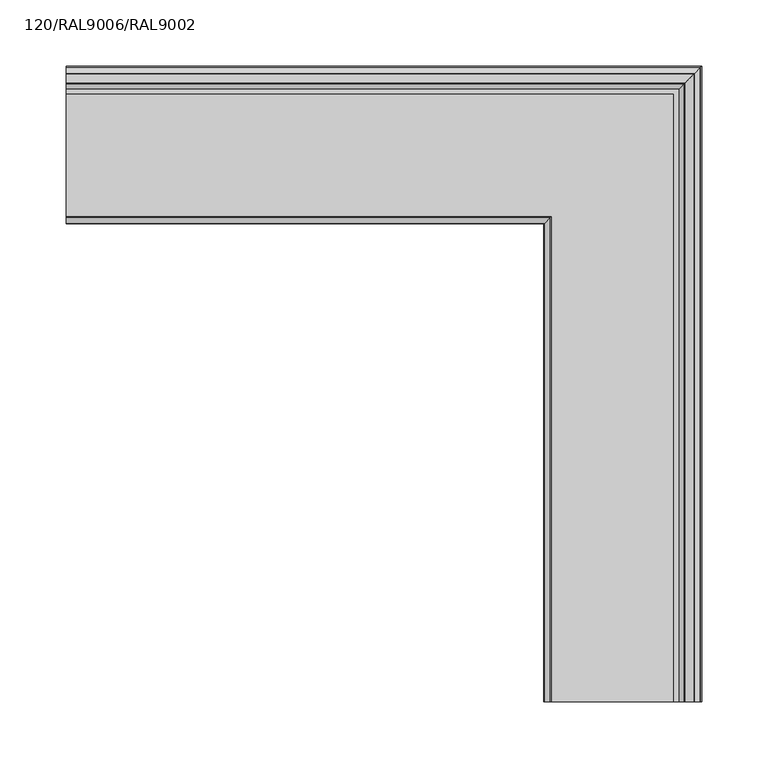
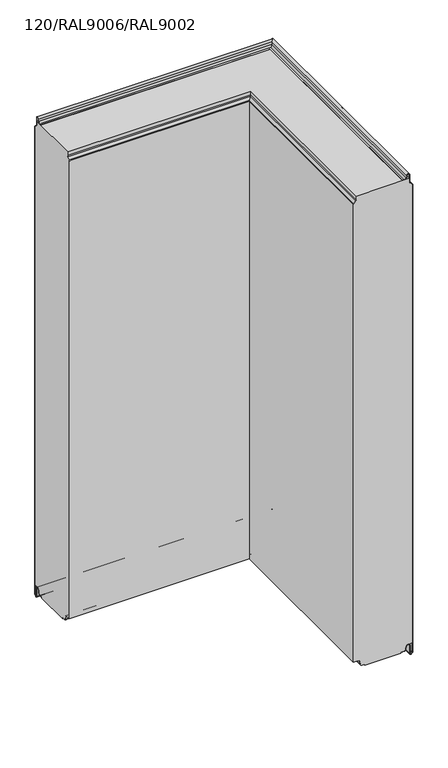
"""IFC4 building model written with IfcOpenShell, lengths in millimetres: plate geometry, TR_C_H_FTV_Corner_Tr_A : 120/RAL9006/RAL9002."""

from ifc_helpers import new_model, si_unit, frame, origin, place, context, project, spatial, polyline, circle_curve, ellipse_curve, source, transform, mapped, element, save
from ifc_brep_helpers import plane_surface, cylinder_surface, revolved_surface, advanced_brep


def plate_120_ral9006_ral9002_61fda5af(model_context):
    return source(origin(), model_context, "Body", "AdvancedBrep", [
        advanced_brep(
        [(233.2, -480.0, 1000.0), (126.8, -480.0, 1000.0), (126.8, -480.0, 992.6000012), (125.8334524, -480.0, 990.2665488), (121.4443651, -480.0, 985.8774615), (120.8, -480.0, 984.3218266), (120.8, -480.0, 14.4000012), (129.45, -480.0, 14.4000012), (133.635433, -480.0, 10.8880059), (134.7022582, -480.0, 4.837739), (137.6074411, -480.0, 2.4000012), (143.7, -480.0, 2.4000012), (143.7, -480.0, 0.0), (216.3, -480.0, 0.0), (216.3, -480.0, 2.4000012), (222.3925589, -480.0, 2.4000012), (225.2977418, -480.0, 4.837739), (226.364567, -480.0, 10.8880059), (230.55, -480.0, 14.4000012), (239.2, -480.0, 14.4000012), (239.2, -480.0, 984.3218266), (238.5556349, -480.0, 985.8774615), (234.1665476, -480.0, 990.2665488), (233.2, -480.0, 992.6000012), (126.8, -113.2, 992.6000012), (126.8, -113.2, 1000.0), (-240.0, -113.2, 1000.0), (-240.0, -113.2, 992.6000012), (125.8334524, -114.1665476, 990.2665488), (-240.0, -114.1665476, 990.2665488), (121.4443651, -118.5556349, 985.8774615), (-240.0, -118.5556349, 985.8774615), (120.8, -119.2, 984.3218266), (-240.0, -119.2, 984.3218266), (120.8, -119.2, 14.4000012), (-240.0, -119.2, 14.4000012), (133.635433, -106.364567, 10.8880059), (129.45, -110.55, 14.4000012), (-240.0, -110.55, 14.4000012), (-240.0, -106.364567, 10.8880059), (134.7022582, -105.2977418, 4.837739), (-240.0, -105.2977418, 4.837739), (137.6074411, -102.3925589, 2.4000012), (-240.0, -102.3925589, 2.4000012), (143.7, -96.3, 0.0), (143.7, -96.3, 2.4000012), (-240.0, -96.3, 2.4000012), (-240.0, -96.3, 0.0), (216.3, -23.7, 2.4000012), (216.3, -23.7, 0.0), (-240.0, -23.7, 0.0), (-240.0, -23.7, 2.4000012), (225.2977418, -14.7022582, 4.837739), (222.3925589, -17.6074411, 2.4000012), (-240.0, -17.6074411, 2.4000012), (-240.0, -14.7022582, 4.837739), (226.364567, -13.635433, 10.8880059), (-240.0, -13.635433, 10.8880059), (230.55, -9.45, 14.4000012), (-240.0, -9.45, 14.4000012), (239.2, -0.8, 984.3218266), (239.2, -0.8, 14.4000012), (-240.0, -0.8, 14.4000012), (-240.0, -0.8, 984.3218266), (238.5556349, -1.4443651, 985.8774615), (-240.0, -1.4443651, 985.8774615), (234.1665476, -5.8334524, 990.2665488), (-240.0, -5.8334524, 990.2665488), (233.2, -6.8, 992.6000012), (-240.0, -6.8, 992.6000012), (233.2, -6.8, 1000.0), (-240.0, -6.8, 1000.0)],
        [
            (0, 1),
            (1, 2),
            (2, 3, circle_curve(frame((123.5, -480.0, 992.6000012), z_axis=(0.0, 1.0, 0.0), x_axis=(-1.0, 0.0, 0.0)), 3.3)),
            (3, 4),
            (4, 5, circle_curve(frame((123.0, -480.0, 984.3218266), z_axis=(0.0, -1.0, 0.0), x_axis=(-1.0, 0.0, 0.0)), 2.2)),
            (5, 6),
            (6, 7),
            (7, 8, circle_curve(frame((129.45, -480.0, 10.1500012), z_axis=(0.0, 1.0, 0.0), x_axis=(-1.0, 0.0, 0.0)), 4.25)),
            (8, 9),
            (9, 10, circle_curve(frame((137.6074411, -480.0, 5.3500012), z_axis=(0.0, -1.0, 0.0), x_axis=(-1.0, 0.0, 0.0)), 2.95)),
            (10, 11),
            (11, 12),
            (12, 13),
            (13, 14),
            (14, 15),
            (15, 16, circle_curve(frame((222.3925589, -480.0, 5.3500012), z_axis=(0.0, -1.0, 0.0), x_axis=(-1.0, 0.0, 0.0)), 2.95)),
            (16, 17),
            (17, 18, circle_curve(frame((230.55, -480.0, 10.1500012), z_axis=(0.0, 1.0, 0.0), x_axis=(-1.0, 0.0, 0.0)), 4.25)),
            (18, 19),
            (19, 20),
            (20, 21, circle_curve(frame((237.0, -480.0, 984.3218266), z_axis=(0.0, -1.0, 0.0), x_axis=(-1.0, 0.0, 0.0)), 2.2)),
            (21, 22),
            (22, 23, circle_curve(frame((236.5, -480.0, 992.6000012), z_axis=(0.0, 1.0, 0.0), x_axis=(-1.0, 0.0, 0.0)), 3.3)),
            (23, 0),
            (24, 25),
            (25, 26),
            (26, 27),
            (27, 24),
            (28, 24, ellipse_curve(frame((123.5, -116.5, 992.6000012), z_axis=(0.7071067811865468, -0.7071067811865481, 0.0), x_axis=(-0.7071067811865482, -0.7071067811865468, 0.0)), 4.6669048, 3.3)),
            (27, 29, circle_curve(frame((-240.0, -116.5, 992.6000012), z_axis=(-1.0, 0.0, 0.0), x_axis=(0.0, -1.0, 0.0)), 3.3)),
            (29, 28),
            (30, 28),
            (29, 31),
            (31, 30),
            (32, 30, ellipse_curve(frame((123.0, -117.0, 984.3218266), z_axis=(-0.7071067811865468, 0.7071067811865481, 0.0), x_axis=(0.7071067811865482, 0.7071067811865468, 0.0)), 3.1112698, 2.2)),
            (31, 33, circle_curve(frame((-240.0, -117.0, 984.3218266), z_axis=(1.0, 0.0, 0.0), x_axis=(0.0, -1.0, 0.0)), 2.2)),
            (33, 32),
            (34, 32),
            (33, 35),
            (35, 34),
            (36, 37, ellipse_curve(frame((129.45, -110.55, 10.1500012), z_axis=(0.7071067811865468, -0.7071067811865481, 0.0), x_axis=(-0.7071067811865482, -0.7071067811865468, 0.0)), 6.0104076, 4.25)),
            (37, 38),
            (38, 39, circle_curve(frame((-240.0, -110.55, 10.1500012), z_axis=(-1.0, 0.0, 0.0), x_axis=(0.0, -1.0, 0.0)), 4.25)),
            (39, 36),
            (40, 36),
            (39, 41),
            (41, 40),
            (42, 40, ellipse_curve(frame((137.6074411, -102.3925589, 5.3500012), z_axis=(-0.7071067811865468, 0.7071067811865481, 0.0), x_axis=(0.7071067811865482, 0.7071067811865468, 0.0)), 4.17193, 2.95)),
            (41, 43, circle_curve(frame((-240.0, -102.3925589, 5.3500012), z_axis=(1.0, 0.0, 0.0), x_axis=(0.0, -1.0, 0.0)), 2.95)),
            (43, 42),
            (44, 45),
            (45, 46),
            (46, 47),
            (47, 44),
            (48, 49),
            (49, 50),
            (50, 51),
            (51, 48),
            (52, 53, ellipse_curve(frame((222.3925589, -17.6074411, 5.3500012), z_axis=(-0.7071067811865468, 0.7071067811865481, 0.0), x_axis=(0.7071067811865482, 0.7071067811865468, 0.0)), 4.17193, 2.95)),
            (53, 54),
            (54, 55, circle_curve(frame((-240.0, -17.6074411, 5.3500012), z_axis=(1.0, 0.0, 0.0), x_axis=(0.0, -1.0, 0.0)), 2.95)),
            (55, 52),
            (56, 52),
            (55, 57),
            (57, 56),
            (58, 56, ellipse_curve(frame((230.55, -9.45, 10.1500012), z_axis=(0.7071067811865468, -0.7071067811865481, 0.0), x_axis=(-0.7071067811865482, -0.7071067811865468, 0.0)), 6.0104076, 4.25)),
            (57, 59, circle_curve(frame((-240.0, -9.45, 10.1500012), z_axis=(-1.0, 0.0, 0.0), x_axis=(0.0, -1.0, 0.0)), 4.25)),
            (59, 58),
            (60, 61),
            (61, 62),
            (62, 63),
            (63, 60),
            (64, 60, ellipse_curve(frame((237.0, -3.0, 984.3218266), z_axis=(-0.7071067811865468, 0.7071067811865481, 0.0), x_axis=(0.7071067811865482, 0.7071067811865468, 0.0)), 3.1112698, 2.2)),
            (63, 65, circle_curve(frame((-240.0, -3.0, 984.3218266), z_axis=(1.0, 0.0, 0.0), x_axis=(0.0, -1.0, 0.0)), 2.2)),
            (65, 64),
            (66, 64),
            (65, 67),
            (67, 66),
            (68, 66, ellipse_curve(frame((236.5, -3.5, 992.6000012), z_axis=(0.7071067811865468, -0.7071067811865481, 0.0), x_axis=(-0.7071067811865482, -0.7071067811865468, 0.0)), 4.6669048, 3.3)),
            (67, 69, circle_curve(frame((-240.0, -3.5, 992.6000012), z_axis=(-1.0, 0.0, 0.0), x_axis=(0.0, -1.0, 0.0)), 3.3)),
            (69, 68),
            (70, 68),
            (69, 71),
            (71, 70),
            (62, 59),
            (54, 51),
            (50, 47),
            (46, 43),
            (38, 35),
            (26, 71),
            (0, 70),
            (25, 1),
            (24, 2),
            (28, 3),
            (30, 4),
            (32, 5),
            (34, 6),
            (37, 7),
            (36, 8),
            (40, 9),
            (42, 10),
            (45, 11),
            (44, 12),
            (49, 13),
            (48, 14),
            (53, 15),
            (52, 16),
            (56, 17),
            (58, 18),
            (61, 19),
            (60, 20),
            (64, 21),
            (66, 22),
            (68, 23),
        ],
        [
            plane_surface(frame((240.0, -480.0, 0.0), z_axis=(0.0, -1.0, 0.0), x_axis=(0.0, 0.0, 1.0))),
            plane_surface(frame((126.8, -113.2, 1000.0), z_axis=(0.0, -1.0, 0.0), x_axis=(-1.0, 0.0, 0.0))),
            revolved_surface(polyline([(-240.0, -119.8, 992.6000012), (126.80000003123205, -119.8, 992.6000012)]), (240.0, -116.5, 992.6000012), (-1.0, 0.0, 0.0)),
            plane_surface(frame((125.8334524, -114.1665476, 990.2665488), z_axis=(0.0, -0.707106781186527, 0.707106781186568), x_axis=(-1.0, 0.0, 0.0))),
            cylinder_surface(frame((240.0, -117.0, 984.3218266), z_axis=(1.0, 0.0, 0.0), x_axis=(0.0, -1.0, 0.0)), 2.2),
            plane_surface(frame((120.8, -119.2, 984.3218266), z_axis=(0.0, -1.0, 0.0), x_axis=(-1.0, 0.0, 0.0))),
            revolved_surface(polyline([(-240.0, -114.8, 10.1500012), (133.69999997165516, -114.8, 10.1500012)]), (240.0, -110.55, 10.1500012), (-1.0, 0.0, 0.0)),
            plane_surface(frame((133.635433, -106.364567, 10.8880059), z_axis=(0.0, -0.9848077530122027, -0.17364817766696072), x_axis=(-1.0, 0.0, 0.0))),
            cylinder_surface(frame((240.0, -102.3925589, 5.3500012), z_axis=(1.0, 0.0, 0.0), x_axis=(0.0, -1.0, 0.0)), 2.95),
            plane_surface(frame((143.7, -96.3, 2.4000012), z_axis=(0.0, -1.0, 0.0), x_axis=(-1.0, 0.0, 0.0))),
            plane_surface(frame((216.3, -23.7, 0.0), z_axis=(0.0, 1.0, 0.0), x_axis=(-1.0, 0.0, 0.0))),
            cylinder_surface(frame((240.0, -17.6074411, 5.3500012), z_axis=(1.0, 0.0, 0.0), x_axis=(0.0, -1.0, 0.0)), 2.95),
            plane_surface(frame((225.2977418, -14.7022582, 4.837739), z_axis=(0.0, 0.9848077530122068, -0.1736481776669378), x_axis=(-1.0, 0.0, 0.0))),
            revolved_surface(polyline([(-240.0, -13.7, 10.1500012), (234.79999997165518, -13.7, 10.1500012)]), (240.0, -9.45, 10.1500012), (-1.0, 0.0, 0.0)),
            plane_surface(frame((239.2, -0.8, 14.4000012), z_axis=(0.0, 1.0, 0.0), x_axis=(-1.0, 0.0, 0.0))),
            cylinder_surface(frame((240.0, -3.0, 984.3218266), z_axis=(1.0, 0.0, 0.0), x_axis=(0.0, -1.0, 0.0)), 2.2),
            plane_surface(frame((238.5556349, -1.4443651, 985.8774615), z_axis=(0.0, 0.7071067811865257, 0.7071067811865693), x_axis=(-1.0, 0.0, 0.0))),
            revolved_surface(polyline([(-240.0, -6.8, 992.6000012), (239.80000003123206, -6.8, 992.6000012)]), (240.0, -3.5, 992.6000012), (-1.0, 0.0, 0.0)),
            plane_surface(frame((233.2, -6.8, 992.6000012), z_axis=(0.0, 1.0, 0.0), x_axis=(-1.0, 0.0, 0.0))),
            plane_surface(frame((-240.0, 0.0, 0.0), z_axis=(-1.0, 0.0, 0.0), x_axis=(0.0, 0.0, 1.0))),
            plane_surface(frame((233.2, -480.0, 1000.0), z_axis=(0.0, 0.0, 1.0), x_axis=(0.0, 1.0, 0.0))),
            plane_surface(frame((126.8, -480.0, 1000.0), z_axis=(-1.0, 0.0, 0.0), x_axis=(0.0, 1.0, 0.0))),
            revolved_surface(polyline([(120.2, -113.19999996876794, 992.6000012), (120.2, -480.0, 992.6000012)]), (123.5, -480.0, 992.6000012), (0.0, 1.0, 0.0)),
            plane_surface(frame((125.8334524, -480.0, 990.2665488), z_axis=(-0.707106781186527, 0.0, 0.707106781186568), x_axis=(0.0, 1.0, 0.0))),
            cylinder_surface(frame((123.0, -480.0, 984.3218266), z_axis=(0.0, -1.0, 0.0), x_axis=(-1.0, 0.0, 0.0)), 2.2),
            plane_surface(frame((120.8, -480.0, 984.3218266), z_axis=(-1.0, 0.0, 0.0), x_axis=(0.0, 1.0, 0.0))),
            plane_surface(frame((120.8, -480.0, 14.4000012), z_axis=(0.0, 0.0, -1.0), x_axis=(0.0, 1.0, 0.0))),
            revolved_surface(polyline([(125.19999999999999, -106.30000002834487, 10.1500012), (125.19999999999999, -480.0, 10.1500012)]), (129.45, -480.0, 10.1500012), (0.0, 1.0, 0.0)),
            plane_surface(frame((133.635433, -480.0, 10.8880059), z_axis=(-0.9848077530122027, 0.0, -0.17364817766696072), x_axis=(0.0, 1.0, 0.0))),
            cylinder_surface(frame((137.6074411, -480.0, 5.3500012), z_axis=(0.0, -1.0, 0.0), x_axis=(-1.0, 0.0, 0.0)), 2.95),
            plane_surface(frame((137.6074411, -480.0, 2.4000012), z_axis=(0.0, 0.0, -1.0), x_axis=(0.0, 1.0, 0.0))),
            plane_surface(frame((143.7, -480.0, 2.4000012), z_axis=(-1.0, 0.0, 0.0), x_axis=(0.0, 1.0, 0.0))),
            plane_surface(frame((143.7, -480.0, 0.0), z_axis=(0.0, 0.0, -1.0), x_axis=(0.0, 1.0, 0.0))),
            plane_surface(frame((216.3, -480.0, 0.0), z_axis=(1.0, 0.0, 0.0), x_axis=(0.0, 1.0, 0.0))),
            plane_surface(frame((216.3, -480.0, 2.4000012), z_axis=(0.0, 0.0, -1.0), x_axis=(0.0, 1.0, 0.0))),
            cylinder_surface(frame((222.3925589, -480.0, 5.3500012), z_axis=(0.0, -1.0, 0.0), x_axis=(-1.0, 0.0, 0.0)), 2.95),
            plane_surface(frame((225.2977418, -480.0, 4.837739), z_axis=(0.9848077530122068, 0.0, -0.1736481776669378), x_axis=(0.0, 1.0, 0.0))),
            revolved_surface(polyline([(226.3, -5.200000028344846, 10.1500012), (226.3, -480.0, 10.1500012)]), (230.55, -480.0, 10.1500012), (0.0, 1.0, 0.0)),
            plane_surface(frame((230.55, -480.0, 14.4000012), z_axis=(0.0, 0.0, -1.0), x_axis=(0.0, 1.0, 0.0))),
            plane_surface(frame((239.2, -480.0, 14.4000012), z_axis=(1.0, 0.0, 0.0), x_axis=(0.0, 1.0, 0.0))),
            cylinder_surface(frame((237.0, -480.0, 984.3218266), z_axis=(0.0, -1.0, 0.0), x_axis=(-1.0, 0.0, 0.0)), 2.2),
            plane_surface(frame((238.5556349, -480.0, 985.8774615), z_axis=(0.7071067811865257, 0.0, 0.7071067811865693), x_axis=(0.0, 1.0, 0.0))),
            revolved_surface(polyline([(233.2, -0.19999996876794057, 992.6000012), (233.2, -480.0, 992.6000012)]), (236.5, -480.0, 992.6000012), (0.0, 1.0, 0.0)),
            plane_surface(frame((233.2, -480.0, 992.6000012), z_axis=(1.0, 0.0, 0.0), x_axis=(0.0, 1.0, 0.0))),
        ],
        [
            (0, [[1, 2, 3, 4, 5, 6, 7, 8, 9, 10, 11, 12, 13, 14, 15, 16, 17, 18, 19, 20, 21, 22, 23, 24]]),
            (1, [[25, 26, 27, 28]]),
            (2, [[29, -28, 30, 31]]),
            (3, [[32, -31, 33, 34]]),
            (4, [[35, -34, 36, 37]]),
            (5, [[38, -37, 39, 40]]),
            (6, [[41, 42, 43, 44]]),
            (7, [[45, -44, 46, 47]]),
            (8, [[48, -47, 49, 50]]),
            (9, [[51, 52, 53, 54]]),
            (10, [[55, 56, 57, 58]]),
            (11, [[59, 60, 61, 62]]),
            (12, [[63, -62, 64, 65]]),
            (13, [[66, -65, 67, 68]]),
            (14, [[69, 70, 71, 72]]),
            (15, [[73, -72, 74, 75]]),
            (16, [[76, -75, 77, 78]]),
            (17, [[79, -78, 80, 81]]),
            (18, [[82, -81, 83, 84]]),
            (19, [[-83, -80, -77, -74, -71, 85, -67, -64, -61, 86, -57, 87, -53, 88, -49, -46, -43, 89, -39, -36, -33, -30, -27, 90]]),
            (20, [[-1, 91, -84, -90, -26, 92]]),
            (21, [[-2, -92, -25, 93]]),
            (22, [[-3, -93, -29, 94]]),
            (23, [[-4, -94, -32, 95]]),
            (24, [[-5, -95, -35, 96]]),
            (25, [[-6, -96, -38, 97]]),
            (26, [[-7, -97, -40, -89, -42, 98]]),
            (27, [[-8, -98, -41, 99]]),
            (28, [[-9, -99, -45, 100]]),
            (29, [[-10, -100, -48, 101]]),
            (30, [[-11, -101, -50, -88, -52, 102]]),
            (31, [[-12, -102, -51, 103]]),
            (32, [[-13, -103, -54, -87, -56, 104]]),
            (33, [[-14, -104, -55, 105]]),
            (34, [[-15, -105, -58, -86, -60, 106]]),
            (35, [[-16, -106, -59, 107]]),
            (36, [[-17, -107, -63, 108]]),
            (37, [[-18, -108, -66, 109]]),
            (38, [[-19, -109, -68, -85, -70, 110]]),
            (39, [[-20, -110, -69, 111]]),
            (40, [[-21, -111, -73, 112]]),
            (41, [[-22, -112, -76, 113]]),
            (42, [[-23, -113, -79, 114]]),
            (43, [[-24, -114, -82, -91]]),
        ],
    ),
        advanced_brep(
        [(223.1130328, -480.0, 999.8000012), (227.5939081, -480.0, 1003.559902), (228.337221, -480.0, 1007.7754392), (233.2, -480.0, 1007.3500012), (233.2, -480.0, 992.6000012), (234.1665476, -480.0, 990.2665488), (238.5556349, -480.0, 985.8774615), (239.2, -480.0, 984.3218266), (239.2, -480.0, -5.018628), (238.6288582, -480.0, -6.3974862), (236.7631728, -480.0, -8.2631716), (234.8, -480.0, -7.4499988), (234.8, -480.0, 10.1500012), (226.364567, -480.0, 10.8880059), (225.2977418, -480.0, 4.837739), (222.3925589, -480.0, 2.4000012), (219.0, -480.0, 2.4000012), (219.0, -480.0, 1.6000012), (222.3925589, -480.0, 1.6000012), (226.085588, -480.0, 4.6988205), (227.1524133, -480.0, 10.7490874), (234.0, -480.0, 10.1500012), (234.0, -480.0, -7.4499988), (237.3288582, -480.0, -8.8288571), (239.1945436, -480.0, -6.9631716), (240.0, -480.0, -5.018628), (240.0, -480.0, 984.3218266), (239.1213203, -480.0, 986.4431469), (234.732233, -480.0, 990.8322342), (234.0, -480.0, 992.6000012), (234.0, -480.0, 1007.3500012), (227.5493748, -480.0, 1007.9143577), (226.8060618, -480.0, 1003.6988205), (223.1130328, -480.0, 1000.6000012), (219.0, -480.0, 1000.6000012), (219.0, -480.0, 999.8000012), (227.5939081, -12.4060919, 1003.559902), (223.1130328, -16.8869672, 999.8000012), (-240.0, -16.8869672, 999.8000012), (-240.0, -12.4060919, 1003.559902), (228.337221, -11.662779, 1007.7754392), (-240.0, -11.662779, 1007.7754392), (233.2, -6.8, 1007.3500012), (-240.0, -6.8, 1007.3500012), (233.2, -6.8, 992.6000012), (-240.0, -6.8, 992.6000012), (234.1665476, -5.8334524, 990.2665488), (-240.0, -5.8334524, 990.2665488), (238.5556349, -1.4443651, 985.8774615), (-240.0, -1.4443651, 985.8774615), (239.2, -0.8, 984.3218266), (-240.0, -0.8, 984.3218266), (239.2, -0.8, -5.018628), (-240.0, -0.8, -5.018628), (238.6288582, -1.3711418, -6.3974862), (-240.0, -1.3711418, -6.3974862), (236.7631728, -3.2368272, -8.2631716), (-240.0, -3.2368272, -8.2631716), (234.8, -5.2, -7.4499988), (-240.0, -5.2, -7.4499988), (234.8, -5.2, 10.1500012), (-240.0, -5.2, 10.1500012), (226.364567, -13.635433, 10.8880059), (-240.0, -13.635433, 10.8880059), (225.2977418, -14.7022582, 4.837739), (-240.0, -14.7022582, 4.837739), (222.3925589, -17.6074411, 2.4000012), (-240.0, -17.6074411, 2.4000012), (219.0, -21.0, 1.6000012), (219.0, -21.0, 2.4000012), (-240.0, -21.0, 2.4000012), (-240.0, -21.0, 1.6000012), (226.085588, -13.914412, 4.6988205), (222.3925589, -17.6074411, 1.6000012), (-240.0, -17.6074411, 1.6000012), (-240.0, -13.914412, 4.6988205), (227.1524133, -12.8475867, 10.7490874), (-240.0, -12.8475867, 10.7490874), (234.0, -6.0, 10.1500012), (-240.0, -6.0, 10.1500012), (234.0, -6.0, -7.4499988), (-240.0, -6.0, -7.4499988), (237.3288582, -2.6711418, -8.8288571), (-240.0, -2.6711418, -8.8288571), (239.1945436, -0.8054564, -6.9631716), (-240.0, -0.8054564, -6.9631716), (240.0, 0.0, -5.018628), (-240.0, 0.0, -5.018628), (240.0, 0.0, 984.3218266), (-240.0, 0.0, 984.3218266), (239.1213203, -0.8786797, 986.4431469), (-240.0, -0.8786797, 986.4431469), (234.732233, -5.267767, 990.8322342), (-240.0, -5.267767, 990.8322342), (234.0, -6.0, 992.6000012), (-240.0, -6.0, 992.6000012), (234.0, -6.0, 1007.3500012), (-240.0, -6.0, 1007.3500012), (227.5493748, -12.4506252, 1007.9143577), (-240.0, -12.4506252, 1007.9143577), (226.8060618, -13.1939382, 1003.6988205), (-240.0, -13.1939382, 1003.6988205), (223.1130328, -16.8869672, 1000.6000012), (-240.0, -16.8869672, 1000.6000012), (219.0, -21.0, 999.8000012), (219.0, -21.0, 1000.6000012), (-240.0, -21.0, 1000.6000012), (-240.0, -21.0, 999.8000012)],
        [
            (0, 1, circle_curve(frame((223.1130328, -480.0, 1004.3500012), z_axis=(0.0, -1.0, 0.0), x_axis=(-1.0, 0.0, 0.0)), 4.55)),
            (1, 2),
            (2, 3, circle_curve(frame((230.75, -480.0, 1007.3500012), z_axis=(0.0, 1.0, 0.0), x_axis=(-1.0, 0.0, 0.0)), 2.45)),
            (3, 4),
            (4, 5, circle_curve(frame((236.5, -480.0, 992.6000012), z_axis=(0.0, -1.0, 0.0), x_axis=(-1.0, 0.0, 0.0)), 3.3)),
            (5, 6),
            (6, 7, circle_curve(frame((237.0, -480.0, 984.3218266), z_axis=(0.0, 1.0, 0.0), x_axis=(-1.0, 0.0, 0.0)), 2.2)),
            (7, 8),
            (8, 9, circle_curve(frame((237.25, -480.0, -5.018628), z_axis=(0.0, 1.0, 0.0), x_axis=(-1.0, 0.0, 0.0)), 1.95)),
            (9, 10),
            (10, 11, circle_curve(frame((235.95, -480.0, -7.4499988), z_axis=(0.0, 1.0, 0.0), x_axis=(-1.0, 0.0, 0.0)), 1.15)),
            (11, 12),
            (12, 13, circle_curve(frame((230.55, -480.0, 10.1500012), z_axis=(0.0, -1.0, 0.0), x_axis=(-1.0, 0.0, 0.0)), 4.25)),
            (13, 14),
            (14, 15, circle_curve(frame((222.3925589, -480.0, 5.3500012), z_axis=(0.0, 1.0, 0.0), x_axis=(-1.0, 0.0, 0.0)), 2.95)),
            (15, 16),
            (16, 17),
            (17, 18),
            (18, 19, circle_curve(frame((222.3925589, -480.0, 5.3500012), z_axis=(0.0, -1.0, 0.0), x_axis=(-1.0, 0.0, 0.0)), 3.75)),
            (19, 20),
            (20, 21, circle_curve(frame((230.55, -480.0, 10.1500012), z_axis=(0.0, 1.0, 0.0), x_axis=(-1.0, 0.0, 0.0)), 3.45)),
            (21, 22),
            (22, 23, circle_curve(frame((235.95, -480.0, -7.4499988), z_axis=(0.0, -1.0, 0.0), x_axis=(-1.0, 0.0, 0.0)), 1.95)),
            (23, 24),
            (24, 25, circle_curve(frame((237.25, -480.0, -5.018628), z_axis=(0.0, -1.0, 0.0), x_axis=(-1.0, 0.0, 0.0)), 2.75)),
            (25, 26),
            (26, 27, circle_curve(frame((237.0, -480.0, 984.3218266), z_axis=(0.0, -1.0, 0.0), x_axis=(-1.0, 0.0, 0.0)), 3.0)),
            (27, 28),
            (28, 29, circle_curve(frame((236.5, -480.0, 992.6000012), z_axis=(0.0, 1.0, 0.0), x_axis=(-1.0, 0.0, 0.0)), 2.5)),
            (29, 30),
            (30, 31, circle_curve(frame((230.75, -480.0, 1007.3500012), z_axis=(0.0, -1.0, 0.0), x_axis=(-1.0, 0.0, 0.0)), 3.25)),
            (31, 32),
            (32, 33, circle_curve(frame((223.1130328, -480.0, 1004.3500012), z_axis=(0.0, 1.0, 0.0), x_axis=(-1.0, 0.0, 0.0)), 3.75)),
            (33, 34),
            (34, 35),
            (35, 0),
            (36, 37, ellipse_curve(frame((223.1130328, -16.8869672, 1004.3500012), z_axis=(-0.7071067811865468, 0.7071067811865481, 0.0), x_axis=(0.7071067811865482, 0.7071067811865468, 0.0)), 6.4346717, 4.55)),
            (37, 38),
            (38, 39, circle_curve(frame((-240.0, -16.8869672, 1004.3500012), z_axis=(1.0, 0.0, 0.0), x_axis=(0.0, -1.0, 0.0)), 4.55)),
            (39, 36),
            (40, 36),
            (39, 41),
            (41, 40),
            (42, 40, ellipse_curve(frame((230.75, -9.25, 1007.3500012), z_axis=(0.7071067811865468, -0.7071067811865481, 0.0), x_axis=(-0.7071067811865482, -0.7071067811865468, 0.0)), 3.4648232, 2.45)),
            (41, 43, circle_curve(frame((-240.0, -9.25, 1007.3500012), z_axis=(-1.0, 0.0, 0.0), x_axis=(0.0, -1.0, 0.0)), 2.45)),
            (43, 42),
            (44, 42),
            (43, 45),
            (45, 44),
            (46, 44, ellipse_curve(frame((236.5, -3.5, 992.6000012), z_axis=(-0.7071067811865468, 0.7071067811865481, 0.0), x_axis=(0.7071067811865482, 0.7071067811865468, 0.0)), 4.6669048, 3.3)),
            (45, 47, circle_curve(frame((-240.0, -3.5, 992.6000012), z_axis=(1.0, 0.0, 0.0), x_axis=(0.0, -1.0, 0.0)), 3.3)),
            (47, 46),
            (48, 46),
            (47, 49),
            (49, 48),
            (50, 48, ellipse_curve(frame((237.0, -3.0, 984.3218266), z_axis=(0.7071067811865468, -0.7071067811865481, 0.0), x_axis=(-0.7071067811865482, -0.7071067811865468, 0.0)), 3.1112698, 2.2)),
            (49, 51, circle_curve(frame((-240.0, -3.0, 984.3218266), z_axis=(-1.0, 0.0, 0.0), x_axis=(0.0, -1.0, 0.0)), 2.2)),
            (51, 50),
            (52, 50),
            (51, 53),
            (53, 52),
            (54, 52, ellipse_curve(frame((237.25, -2.75, -5.018628), z_axis=(0.7071067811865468, -0.7071067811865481, 0.0), x_axis=(-0.7071067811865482, -0.7071067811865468, 0.0)), 2.7577164, 1.95)),
            (53, 55, circle_curve(frame((-240.0, -2.75, -5.018628), z_axis=(-1.0, 0.0, 0.0), x_axis=(0.0, -1.0, 0.0)), 1.95)),
            (55, 54),
            (56, 54),
            (55, 57),
            (57, 56),
            (58, 56, ellipse_curve(frame((235.95, -4.05, -7.4499988), z_axis=(0.7071067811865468, -0.7071067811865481, 0.0), x_axis=(-0.7071067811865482, -0.7071067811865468, 0.0)), 1.6263456, 1.15)),
            (57, 59, circle_curve(frame((-240.0, -4.05, -7.4499988), z_axis=(-1.0, 0.0, 0.0), x_axis=(0.0, -1.0, 0.0)), 1.15)),
            (59, 58),
            (60, 58),
            (59, 61),
            (61, 60),
            (62, 60, ellipse_curve(frame((230.55, -9.45, 10.1500012), z_axis=(-0.7071067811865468, 0.7071067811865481, 0.0), x_axis=(0.7071067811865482, 0.7071067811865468, 0.0)), 6.0104076, 4.25)),
            (61, 63, circle_curve(frame((-240.0, -9.45, 10.1500012), z_axis=(1.0, 0.0, 0.0), x_axis=(0.0, -1.0, 0.0)), 4.25)),
            (63, 62),
            (64, 62),
            (63, 65),
            (65, 64),
            (66, 64, ellipse_curve(frame((222.3925589, -17.6074411, 5.3500012), z_axis=(0.7071067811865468, -0.7071067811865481, 0.0), x_axis=(-0.7071067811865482, -0.7071067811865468, 0.0)), 4.17193, 2.95)),
            (65, 67, circle_curve(frame((-240.0, -17.6074411, 5.3500012), z_axis=(-1.0, 0.0, 0.0), x_axis=(0.0, -1.0, 0.0)), 2.95)),
            (67, 66),
            (68, 69),
            (69, 70),
            (70, 71),
            (71, 68),
            (72, 73, ellipse_curve(frame((222.3925589, -17.6074411, 5.3500012), z_axis=(-0.7071067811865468, 0.7071067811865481, 0.0), x_axis=(0.7071067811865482, 0.7071067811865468, 0.0)), 5.3033009, 3.75)),
            (73, 74),
            (74, 75, circle_curve(frame((-240.0, -17.6074411, 5.3500012), z_axis=(1.0, 0.0, 0.0), x_axis=(0.0, -1.0, 0.0)), 3.75)),
            (75, 72),
            (76, 72),
            (75, 77),
            (77, 76),
            (78, 76, ellipse_curve(frame((230.55, -9.45, 10.1500012), z_axis=(0.7071067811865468, -0.7071067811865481, 0.0), x_axis=(-0.7071067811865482, -0.7071067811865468, 0.0)), 4.8790368, 3.45)),
            (77, 79, circle_curve(frame((-240.0, -9.45, 10.1500012), z_axis=(-1.0, 0.0, 0.0), x_axis=(0.0, -1.0, 0.0)), 3.45)),
            (79, 78),
            (80, 78),
            (79, 81),
            (81, 80),
            (82, 80, ellipse_curve(frame((235.95, -4.05, -7.4499988), z_axis=(-0.7071067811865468, 0.7071067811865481, 0.0), x_axis=(0.7071067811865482, 0.7071067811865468, 0.0)), 2.7577164, 1.95)),
            (81, 83, circle_curve(frame((-240.0, -4.05, -7.4499988), z_axis=(1.0, 0.0, 0.0), x_axis=(0.0, -1.0, 0.0)), 1.95)),
            (83, 82),
            (84, 82),
            (83, 85),
            (85, 84),
            (86, 84, ellipse_curve(frame((237.25, -2.75, -5.018628), z_axis=(-0.7071067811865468, 0.7071067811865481, 0.0), x_axis=(0.7071067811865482, 0.7071067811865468, 0.0)), 3.8890873, 2.75)),
            (85, 87, circle_curve(frame((-240.0, -2.75, -5.018628), z_axis=(1.0, 0.0, 0.0), x_axis=(0.0, -1.0, 0.0)), 2.75)),
            (87, 86),
            (88, 86),
            (87, 89),
            (89, 88),
            (90, 88, ellipse_curve(frame((237.0, -3.0, 984.3218266), z_axis=(-0.7071067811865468, 0.7071067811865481, 0.0), x_axis=(0.7071067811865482, 0.7071067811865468, 0.0)), 4.2426407, 3.0)),
            (89, 91, circle_curve(frame((-240.0, -3.0, 984.3218266), z_axis=(1.0, 0.0, 0.0), x_axis=(0.0, -1.0, 0.0)), 3.0)),
            (91, 90),
            (92, 90),
            (91, 93),
            (93, 92),
            (94, 92, ellipse_curve(frame((236.5, -3.5, 992.6000012), z_axis=(0.7071067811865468, -0.7071067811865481, 0.0), x_axis=(-0.7071067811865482, -0.7071067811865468, 0.0)), 3.5355339, 2.5)),
            (93, 95, circle_curve(frame((-240.0, -3.5, 992.6000012), z_axis=(-1.0, 0.0, 0.0), x_axis=(0.0, -1.0, 0.0)), 2.5)),
            (95, 94),
            (96, 94),
            (95, 97),
            (97, 96),
            (98, 96, ellipse_curve(frame((230.75, -9.25, 1007.3500012), z_axis=(-0.7071067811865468, 0.7071067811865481, 0.0), x_axis=(0.7071067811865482, 0.7071067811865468, 0.0)), 4.5961941, 3.25)),
            (97, 99, circle_curve(frame((-240.0, -9.25, 1007.3500012), z_axis=(1.0, 0.0, 0.0), x_axis=(0.0, -1.0, 0.0)), 3.25)),
            (99, 98),
            (100, 98),
            (99, 101),
            (101, 100),
            (102, 100, ellipse_curve(frame((223.1130328, -16.8869672, 1004.3500012), z_axis=(0.7071067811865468, -0.7071067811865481, 0.0), x_axis=(-0.7071067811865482, -0.7071067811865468, 0.0)), 5.3033009, 3.75)),
            (101, 103, circle_curve(frame((-240.0, -16.8869672, 1004.3500012), z_axis=(-1.0, 0.0, 0.0), x_axis=(0.0, -1.0, 0.0)), 3.75)),
            (103, 102),
            (104, 105),
            (105, 106),
            (106, 107),
            (107, 104),
            (38, 107),
            (106, 103),
            (74, 71),
            (70, 67),
            (0, 37),
            (36, 1),
            (40, 2),
            (42, 3),
            (44, 4),
            (46, 5),
            (48, 6),
            (50, 7),
            (52, 8),
            (54, 9),
            (56, 10),
            (58, 11),
            (60, 12),
            (62, 13),
            (64, 14),
            (66, 15),
            (69, 16),
            (68, 17),
            (73, 18),
            (72, 19),
            (76, 20),
            (78, 21),
            (80, 22),
            (82, 23),
            (84, 24),
            (86, 25),
            (88, 26),
            (90, 27),
            (92, 28),
            (94, 29),
            (96, 30),
            (98, 31),
            (100, 32),
            (102, 33),
            (105, 34),
            (104, 35),
        ],
        [
            plane_surface(frame((240.0, -480.0, 0.0), z_axis=(0.0, -1.0, 0.0), x_axis=(0.0, 0.0, 1.0))),
            cylinder_surface(frame((240.0, -16.8869672, 1004.3500012), z_axis=(1.0, 0.0, 0.0), x_axis=(0.0, -1.0, 0.0)), 4.55),
            plane_surface(frame((227.5939081, -12.4060919, 1003.559902), z_axis=(0.0, 0.9848077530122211, -0.1736481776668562), x_axis=(-1.0, 0.0, 0.0))),
            revolved_surface(polyline([(-240.0, -11.7, 1007.3500012), (233.2, -11.7, 1007.3500012)]), (240.0, -9.25, 1007.3500012), (-1.0, 0.0, 0.0)),
            plane_surface(frame((233.2, -6.8, 1007.3500012), z_axis=(0.0, -1.0, 0.0), x_axis=(-1.0, 0.0, 0.0))),
            cylinder_surface(frame((240.0, -3.5, 992.6000012), z_axis=(1.0, 0.0, 0.0), x_axis=(0.0, -1.0, 0.0)), 3.3),
            plane_surface(frame((234.1665476, -5.8334524, 990.2665488), z_axis=(0.0, -0.7071067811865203, -0.7071067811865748), x_axis=(-1.0, 0.0, 0.0))),
            revolved_surface(polyline([(-240.0, -5.2, 984.3218266), (239.2, -5.2, 984.3218266)]), (240.0, -3.0, 984.3218266), (-1.0, 0.0, 0.0)),
            plane_surface(frame((239.2, -0.8, 984.3218266), z_axis=(0.0, -1.0, 0.0), x_axis=(-1.0, 0.0, 0.0))),
            revolved_surface(polyline([(-240.0, -4.7, -5.018628), (239.2, -4.7, -5.018628)]), (240.0, -2.75, -5.018628), (-1.0, 0.0, 0.0)),
            plane_surface(frame((238.6288582, -1.3711418, -6.3974862), z_axis=(0.0, -0.7071067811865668, 0.7071067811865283), x_axis=(-1.0, 0.0, 0.0))),
            revolved_surface(polyline([(-240.0, -5.199999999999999, -7.4499988), (237.1000000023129, -5.199999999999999, -7.4499988)]), (240.0, -4.05, -7.4499988), (-1.0, 0.0, 0.0)),
            plane_surface(frame((234.8, -5.2, -7.4499988), z_axis=(0.0, 1.0, 0.0), x_axis=(-1.0, 0.0, 0.0))),
            cylinder_surface(frame((240.0, -9.45, 10.1500012), z_axis=(1.0, 0.0, 0.0), x_axis=(0.0, -1.0, 0.0)), 4.25),
            plane_surface(frame((226.364567, -13.635433, 10.8880059), z_axis=(0.0, -0.9848077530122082, 0.17364817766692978), x_axis=(-1.0, 0.0, 0.0))),
            revolved_surface(polyline([(-240.0, -20.5574411, 5.3500012), (225.3425588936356, -20.5574411, 5.3500012)]), (240.0, -17.6074411, 5.3500012), (-1.0, 0.0, 0.0)),
            plane_surface(frame((219.0, -21.0, 2.4000012), z_axis=(0.0, -1.0, 0.0), x_axis=(-1.0, 0.0, 0.0))),
            cylinder_surface(frame((240.0, -17.6074411, 5.3500012), z_axis=(1.0, 0.0, 0.0), x_axis=(0.0, -1.0, 0.0)), 3.75),
            plane_surface(frame((226.085588, -13.914412, 4.6988205), z_axis=(0.0, 0.9848077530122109, -0.17364817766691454), x_axis=(-1.0, 0.0, 0.0))),
            revolved_surface(polyline([(-240.0, -12.899999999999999, 10.1500012), (234.00000000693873, -12.899999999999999, 10.1500012)]), (240.0, -9.45, 10.1500012), (-1.0, 0.0, 0.0)),
            plane_surface(frame((234.0, -6.0, 10.1500012), z_axis=(0.0, -1.0, 0.0), x_axis=(-1.0, 0.0, 0.0))),
            cylinder_surface(frame((240.0, -4.05, -7.4499988), z_axis=(1.0, 0.0, 0.0), x_axis=(0.0, -1.0, 0.0)), 1.95),
            plane_surface(frame((237.3288582, -2.6711418, -8.8288571), z_axis=(0.0, 0.7071067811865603, -0.7071067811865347), x_axis=(-1.0, 0.0, 0.0))),
            cylinder_surface(frame((240.0, -2.75, -5.018628), z_axis=(1.0, 0.0, 0.0), x_axis=(0.0, -1.0, 0.0)), 2.75),
            plane_surface(frame((240.0, 0.0, -5.018628), z_axis=(0.0, 1.0, 0.0), x_axis=(-1.0, 0.0, 0.0))),
            cylinder_surface(frame((240.0, -3.0, 984.3218266), z_axis=(1.0, 0.0, 0.0), x_axis=(0.0, -1.0, 0.0)), 3.0),
            plane_surface(frame((239.1213203, -0.8786797, 986.4431469), z_axis=(0.0, 0.7071067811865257, 0.7071067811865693), x_axis=(-1.0, 0.0, 0.0))),
            revolved_surface(polyline([(-240.0, -6.0, 992.6000012), (238.99999999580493, -6.0, 992.6000012)]), (240.0, -3.5, 992.6000012), (-1.0, 0.0, 0.0)),
            plane_surface(frame((234.0, -6.0, 992.6000012), z_axis=(0.0, 1.0, 0.0), x_axis=(-1.0, 0.0, 0.0))),
            cylinder_surface(frame((240.0, -9.25, 1007.3500012), z_axis=(1.0, 0.0, 0.0), x_axis=(0.0, -1.0, 0.0)), 3.25),
            plane_surface(frame((227.5493748, -12.4506252, 1007.9143577), z_axis=(0.0, -0.9848077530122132, 0.17364817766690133), x_axis=(-1.0, 0.0, 0.0))),
            revolved_surface(polyline([(-240.0, -20.6369672, 1004.3500012), (226.86303282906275, -20.6369672, 1004.3500012)]), (240.0, -16.8869672, 1004.3500012), (-1.0, 0.0, 0.0)),
            plane_surface(frame((219.0, -21.0, 1000.6000012), z_axis=(0.0, -1.0, 0.0), x_axis=(-1.0, 0.0, 0.0))),
            plane_surface(frame((-240.0, 0.0, 0.0), z_axis=(-1.0, 0.0, 0.0), x_axis=(0.0, 0.0, 1.0))),
            cylinder_surface(frame((223.1130328, -480.0, 1004.3500012), z_axis=(0.0, -1.0, 0.0), x_axis=(-1.0, 0.0, 0.0)), 4.55),
            plane_surface(frame((227.5939081, -480.0, 1003.559902), z_axis=(0.9848077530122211, 0.0, -0.1736481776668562), x_axis=(0.0, 1.0, 0.0))),
            revolved_surface(polyline([(228.3, -6.800000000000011, 1007.3500012), (228.3, -480.0, 1007.3500012)]), (230.75, -480.0, 1007.3500012), (0.0, 1.0, 0.0)),
            plane_surface(frame((233.2, -480.0, 1007.3500012), z_axis=(-1.0, 0.0, 0.0), x_axis=(0.0, 1.0, 0.0))),
            cylinder_surface(frame((236.5, -480.0, 992.6000012), z_axis=(0.0, -1.0, 0.0), x_axis=(-1.0, 0.0, 0.0)), 3.3),
            plane_surface(frame((234.1665476, -480.0, 990.2665488), z_axis=(-0.7071067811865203, 0.0, -0.7071067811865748), x_axis=(0.0, 1.0, 0.0))),
            revolved_surface(polyline([(234.8, -0.8000000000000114, 984.3218266), (234.8, -480.0, 984.3218266)]), (237.0, -480.0, 984.3218266), (0.0, 1.0, 0.0)),
            plane_surface(frame((239.2, -480.0, 984.3218266), z_axis=(-1.0, 0.0, 0.0), x_axis=(0.0, 1.0, 0.0))),
            revolved_surface(polyline([(235.3, -0.8000000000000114, -5.018628), (235.3, -480.0, -5.018628)]), (237.25, -480.0, -5.018628), (0.0, 1.0, 0.0)),
            plane_surface(frame((238.6288582, -480.0, -6.3974862), z_axis=(-0.7071067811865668, 0.0, 0.7071067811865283), x_axis=(0.0, 1.0, 0.0))),
            revolved_surface(polyline([(234.79999999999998, -2.8999999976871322, -7.4499988), (234.79999999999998, -480.0, -7.4499988)]), (235.95, -480.0, -7.4499988), (0.0, 1.0, 0.0)),
            plane_surface(frame((234.8, -480.0, -7.4499988), z_axis=(1.0, 0.0, 0.0), x_axis=(0.0, 1.0, 0.0))),
            cylinder_surface(frame((230.55, -480.0, 10.1500012), z_axis=(0.0, -1.0, 0.0), x_axis=(-1.0, 0.0, 0.0)), 4.25),
            plane_surface(frame((226.364567, -480.0, 10.8880059), z_axis=(-0.9848077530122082, 0.0, 0.17364817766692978), x_axis=(0.0, 1.0, 0.0))),
            revolved_surface(polyline([(219.44255890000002, -14.657441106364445, 5.3500012), (219.44255890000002, -480.0, 5.3500012)]), (222.3925589, -480.0, 5.3500012), (0.0, 1.0, 0.0)),
            plane_surface(frame((222.3925589, -480.0, 2.4000012), z_axis=(0.0, 0.0, 1.0), x_axis=(0.0, 1.0, 0.0))),
            plane_surface(frame((219.0, -480.0, 2.4000012), z_axis=(-1.0, 0.0, 0.0), x_axis=(0.0, 1.0, 0.0))),
            plane_surface(frame((219.0, -480.0, 1.6000012), z_axis=(0.0, 0.0, -1.0), x_axis=(0.0, 1.0, 0.0))),
            cylinder_surface(frame((222.3925589, -480.0, 5.3500012), z_axis=(0.0, -1.0, 0.0), x_axis=(-1.0, 0.0, 0.0)), 3.75),
            plane_surface(frame((226.085588, -480.0, 4.6988205), z_axis=(0.9848077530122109, 0.0, -0.17364817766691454), x_axis=(0.0, 1.0, 0.0))),
            revolved_surface(polyline([(227.10000000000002, -5.999999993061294, 10.1500012), (227.10000000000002, -480.0, 10.1500012)]), (230.55, -480.0, 10.1500012), (0.0, 1.0, 0.0)),
            plane_surface(frame((234.0, -480.0, 10.1500012), z_axis=(-1.0, 0.0, 0.0), x_axis=(0.0, 1.0, 0.0))),
            cylinder_surface(frame((235.95, -480.0, -7.4499988), z_axis=(0.0, -1.0, 0.0), x_axis=(-1.0, 0.0, 0.0)), 1.95),
            plane_surface(frame((237.3288582, -480.0, -8.8288571), z_axis=(0.7071067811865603, 0.0, -0.7071067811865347), x_axis=(0.0, 1.0, 0.0))),
            cylinder_surface(frame((237.25, -480.0, -5.018628), z_axis=(0.0, -1.0, 0.0), x_axis=(-1.0, 0.0, 0.0)), 2.75),
            plane_surface(frame((240.0, -480.0, -5.018628), z_axis=(1.0, 0.0, 0.0), x_axis=(0.0, 1.0, 0.0))),
            cylinder_surface(frame((237.0, -480.0, 984.3218266), z_axis=(0.0, -1.0, 0.0), x_axis=(-1.0, 0.0, 0.0)), 3.0),
            plane_surface(frame((239.1213203, -480.0, 986.4431469), z_axis=(0.7071067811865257, 0.0, 0.7071067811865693), x_axis=(0.0, 1.0, 0.0))),
            revolved_surface(polyline([(234.0, -1.0000000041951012, 992.6000012), (234.0, -480.0, 992.6000012)]), (236.5, -480.0, 992.6000012), (0.0, 1.0, 0.0)),
            plane_surface(frame((234.0, -480.0, 992.6000012), z_axis=(1.0, 0.0, 0.0), x_axis=(0.0, 1.0, 0.0))),
            cylinder_surface(frame((230.75, -480.0, 1007.3500012), z_axis=(0.0, -1.0, 0.0), x_axis=(-1.0, 0.0, 0.0)), 3.25),
            plane_surface(frame((227.5493748, -480.0, 1007.9143577), z_axis=(-0.9848077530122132, 0.0, 0.17364817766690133), x_axis=(0.0, 1.0, 0.0))),
            revolved_surface(polyline([(219.3630328, -13.136967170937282, 1004.3500012), (219.3630328, -480.0, 1004.3500012)]), (223.1130328, -480.0, 1004.3500012), (0.0, 1.0, 0.0)),
            plane_surface(frame((223.1130328, -480.0, 1000.6000012), z_axis=(0.0, 0.0, 1.0), x_axis=(0.0, 1.0, 0.0))),
            plane_surface(frame((219.0, -480.0, 1000.6000012), z_axis=(-1.0, 0.0, 0.0), x_axis=(0.0, 1.0, 0.0))),
            plane_surface(frame((219.0, -480.0, 999.8000012), z_axis=(0.0, 0.0, -1.0), x_axis=(0.0, 1.0, 0.0))),
        ],
        [
            (0, [[1, 2, 3, 4, 5, 6, 7, 8, 9, 10, 11, 12, 13, 14, 15, 16, 17, 18, 19, 20, 21, 22, 23, 24, 25, 26, 27, 28, 29, 30, 31, 32, 33, 34, 35, 36]]),
            (1, [[37, 38, 39, 40]]),
            (2, [[41, -40, 42, 43]]),
            (3, [[44, -43, 45, 46]]),
            (4, [[47, -46, 48, 49]]),
            (5, [[50, -49, 51, 52]]),
            (6, [[53, -52, 54, 55]]),
            (7, [[56, -55, 57, 58]]),
            (8, [[59, -58, 60, 61]]),
            (9, [[62, -61, 63, 64]]),
            (10, [[65, -64, 66, 67]]),
            (11, [[68, -67, 69, 70]]),
            (12, [[71, -70, 72, 73]]),
            (13, [[74, -73, 75, 76]]),
            (14, [[77, -76, 78, 79]]),
            (15, [[80, -79, 81, 82]]),
            (16, [[83, 84, 85, 86]]),
            (17, [[87, 88, 89, 90]]),
            (18, [[91, -90, 92, 93]]),
            (19, [[94, -93, 95, 96]]),
            (20, [[97, -96, 98, 99]]),
            (21, [[100, -99, 101, 102]]),
            (22, [[103, -102, 104, 105]]),
            (23, [[106, -105, 107, 108]]),
            (24, [[109, -108, 110, 111]]),
            (25, [[112, -111, 113, 114]]),
            (26, [[115, -114, 116, 117]]),
            (27, [[118, -117, 119, 120]]),
            (28, [[121, -120, 122, 123]]),
            (29, [[124, -123, 125, 126]]),
            (30, [[127, -126, 128, 129]]),
            (31, [[130, -129, 131, 132]]),
            (32, [[133, 134, 135, 136]]),
            (33, [[137, -135, 138, -131, -128, -125, -122, -119, -116, -113, -110, -107, -104, -101, -98, -95, -92, -89, 139, -85, 140, -81, -78, -75, -72, -69, -66, -63, -60, -57, -54, -51, -48, -45, -42, -39]]),
            (34, [[-1, 141, -37, 142]]),
            (35, [[-2, -142, -41, 143]]),
            (36, [[-3, -143, -44, 144]]),
            (37, [[-4, -144, -47, 145]]),
            (38, [[-5, -145, -50, 146]]),
            (39, [[-6, -146, -53, 147]]),
            (40, [[-7, -147, -56, 148]]),
            (41, [[-8, -148, -59, 149]]),
            (42, [[-9, -149, -62, 150]]),
            (43, [[-10, -150, -65, 151]]),
            (44, [[-11, -151, -68, 152]]),
            (45, [[-12, -152, -71, 153]]),
            (46, [[-13, -153, -74, 154]]),
            (47, [[-14, -154, -77, 155]]),
            (48, [[-15, -155, -80, 156]]),
            (49, [[-16, -156, -82, -140, -84, 157]]),
            (50, [[-17, -157, -83, 158]]),
            (51, [[-18, -158, -86, -139, -88, 159]]),
            (52, [[-19, -159, -87, 160]]),
            (53, [[-20, -160, -91, 161]]),
            (54, [[-21, -161, -94, 162]]),
            (55, [[-22, -162, -97, 163]]),
            (56, [[-23, -163, -100, 164]]),
            (57, [[-24, -164, -103, 165]]),
            (58, [[-25, -165, -106, 166]]),
            (59, [[-26, -166, -109, 167]]),
            (60, [[-27, -167, -112, 168]]),
            (61, [[-28, -168, -115, 169]]),
            (62, [[-29, -169, -118, 170]]),
            (63, [[-30, -170, -121, 171]]),
            (64, [[-31, -171, -124, 172]]),
            (65, [[-32, -172, -127, 173]]),
            (66, [[-33, -173, -130, 174]]),
            (67, [[-34, -174, -132, -138, -134, 175]]),
            (68, [[-35, -175, -133, 176]]),
            (69, [[-36, -176, -136, -137, -38, -141]]),
        ],
    ),
    ])


if __name__ == "__main__":
    model = new_model("IFC4")
    model_context = context("Model", 3, world=origin())
    ifc_project = project(units=[si_unit("LENGTHUNIT", "METRE", prefix="MILLI")], contexts=[model_context])
    site = spatial("IfcSite", under=ifc_project)
    building = spatial("IfcBuilding", under=site)
    placement = place(None, origin())
    plate_120_ral9006_ral9002_shape = plate_120_ral9006_ral9002_61fda5af(model_context)
    element("IfcPlate", 1, ObjectType="TR_C_H_FTV_Corner_Tr_A : 120/RAL9006/RAL9002", at=placement, inside=building, context=model_context, shape_type="MappedRepresentation", body=[
        mapped(plate_120_ral9006_ral9002_shape, transform((0.0, 0.0, 0.0), x_axis=(1.0, 0.0, 0.0), y_axis=(0.0, 1.0, 0.0), z_axis=(0.0, 0.0, 1.0))),
    ])
    save(model, "model.ifc")
